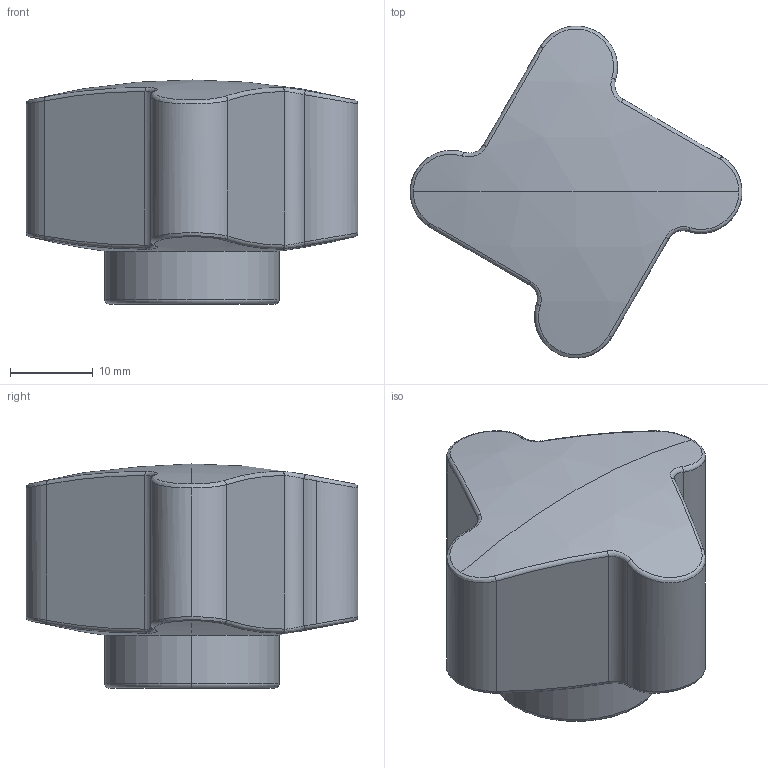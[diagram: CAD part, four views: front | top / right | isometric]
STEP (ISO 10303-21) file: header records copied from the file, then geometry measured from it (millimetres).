
FILE_DESCRIPTION (( 'STEP AP214' ), '1' );
FILE_NAME ('1120 40 301.STEP', '2010-11-26T15:30:05', ( 'Marc' ), ( '' ), 'SwSTEP 2.0', 'SolidWorks 2010', '' );
FILE_SCHEMA (( 'AUTOMOTIVE_DESIGN' ));
Length unit declared in the file: millimetre
Products named in the file (1): 1120 40 301
Bounding box: 39.99 x 39.99 x 27 mm (x, y, z)
Volume: 17473.3 mm3; surface area: 6234.6 mm2
Topology: 2 solids, 2 shells, 61 faces, 139 edges, 82 vertices
Faces by surface type: cylinder 19, bspline 16, torus 10, plane 8, sphere 4, cone 4
Entity records: 5868 total; most frequent: CARTESIAN_POINT 4445, ORIENTED_EDGE 274, DIRECTION 247, EDGE_CURVE 137, AXIS2_PLACEMENT_3D 110, VERTEX_POINT 82, CIRCLE 64, EDGE_LOOP 63
